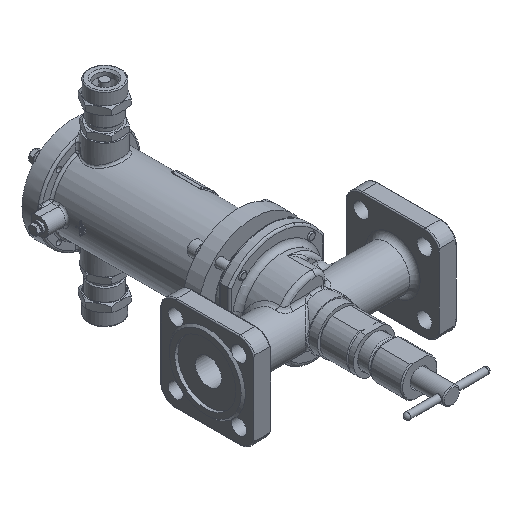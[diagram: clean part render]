
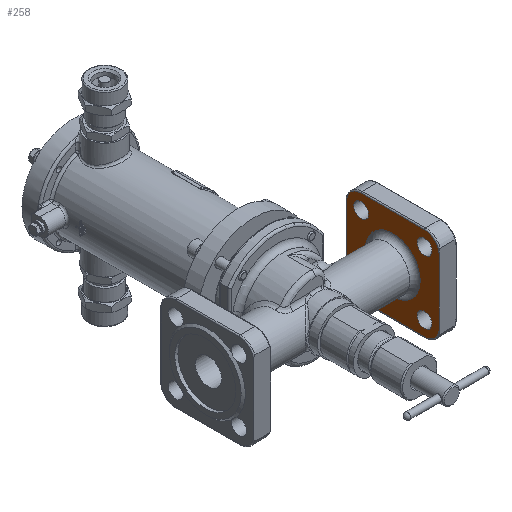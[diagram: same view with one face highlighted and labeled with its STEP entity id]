
A CAD part, isometric view. The second image highlights one B-rep face of the part: STEP entity #258.
In plain terms, the highlighted planar face has unit normal (-1, 0, 0).
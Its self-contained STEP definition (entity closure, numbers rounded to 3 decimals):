
#258=ADVANCED_FACE('',(#6287,#6289,#6291,#6293,#6295,#6297),#6299,.T.);
#6287=FACE_BOUND('',#6288,.T.);
#6288=EDGE_LOOP('',(#21467));
#6289=FACE_BOUND('',#6290,.T.);
#6290=EDGE_LOOP('',(#21468));
#6291=FACE_BOUND('',#6292,.T.);
#6292=EDGE_LOOP('',(#21469));
#6293=FACE_BOUND('',#6294,.T.);
#6294=EDGE_LOOP('',(#21470));
#6295=FACE_BOUND('',#6296,.T.);
#6296=EDGE_LOOP('',(#21471));
#6297=FACE_OUTER_BOUND('',#6298,.T.);
#6298=EDGE_LOOP('',(#21472,#21473,#21474,#21475,#21476,#21477,#21478,#21479));
#6299=PLANE('',#6300);
#6300=AXIS2_PLACEMENT_3D('',#6301,#6302,#6303);
#6301=CARTESIAN_POINT('',(80.,0.,0.));
#6302=DIRECTION('',(-1.,0.,0.));
#6303=DIRECTION('',(0.,1.,0.));
#21467=ORIENTED_EDGE('',*,*,#32664,.F.);
#21468=ORIENTED_EDGE('',*,*,#32712,.T.);
#21469=ORIENTED_EDGE('',*,*,#32713,.T.);
#21470=ORIENTED_EDGE('',*,*,#32714,.T.);
#21471=ORIENTED_EDGE('',*,*,#32715,.T.);
#21472=ORIENTED_EDGE('',*,*,#32716,.T.);
#21473=ORIENTED_EDGE('',*,*,#32717,.T.);
#21474=ORIENTED_EDGE('',*,*,#32718,.T.);
#21475=ORIENTED_EDGE('',*,*,#32719,.T.);
#21476=ORIENTED_EDGE('',*,*,#32720,.T.);
#21477=ORIENTED_EDGE('',*,*,#32721,.T.);
#21478=ORIENTED_EDGE('',*,*,#32722,.T.);
#21479=ORIENTED_EDGE('',*,*,#32723,.T.);
#32664=EDGE_CURVE('',#37829,#37829,#37831,.T.);
#32712=EDGE_CURVE('',#37904,#37904,#37905,.T.);
#32713=EDGE_CURVE('',#37906,#37906,#37907,.T.);
#32714=EDGE_CURVE('',#37908,#37908,#37909,.T.);
#32715=EDGE_CURVE('',#37910,#37910,#37911,.T.);
#32716=EDGE_CURVE('',#37912,#37913,#37914,.F.);
#32717=EDGE_CURVE('',#37913,#37915,#37916,.F.);
#32718=EDGE_CURVE('',#37915,#37917,#37918,.T.);
#32719=EDGE_CURVE('',#37917,#37919,#37920,.F.);
#32720=EDGE_CURVE('',#37919,#37921,#37922,.T.);
#32721=EDGE_CURVE('',#37921,#37923,#37924,.F.);
#32722=EDGE_CURVE('',#37923,#37925,#37926,.T.);
#32723=EDGE_CURVE('',#37925,#37912,#37927,.F.);
#37829=VERTEX_POINT('',#48208);
#37831=CIRCLE('',#48213,26.);
#37904=VERTEX_POINT('',#48565);
#37905=CIRCLE('',#48566,7.);
#37906=VERTEX_POINT('',#48570);
#37907=CIRCLE('',#48571,7.);
#37908=VERTEX_POINT('',#48575);
#37909=CIRCLE('',#48576,7.);
#37910=VERTEX_POINT('',#48580);
#37911=CIRCLE('',#48581,7.);
#37912=VERTEX_POINT('',#48585);
#37913=VERTEX_POINT('',#48586);
#37914=LINE('',#48587,#48588);
#37915=VERTEX_POINT('',#48590);
#37916=CIRCLE('',#48591,14.);
#37917=VERTEX_POINT('',#48595);
#37918=LINE('',#48596,#48597);
#37919=VERTEX_POINT('',#48599);
#37920=CIRCLE('',#48600,14.);
#37921=VERTEX_POINT('',#48604);
#37922=LINE('',#48605,#48606);
#37923=VERTEX_POINT('',#48608);
#37924=CIRCLE('',#48609,14.);
#37925=VERTEX_POINT('',#48613);
#37926=LINE('',#48614,#48615);
#37927=CIRCLE('',#48617,14.);
#48208=CARTESIAN_POINT('',(80.,26.,0.));
#48213=AXIS2_PLACEMENT_3D('',#48214,#48215,#48216);
#48214=CARTESIAN_POINT('',(80.,0.,0.));
#48215=DIRECTION('',(-1.,0.,0.));
#48216=DIRECTION('',(0.,1.,0.));
#48565=CARTESIAN_POINT('',(80.,30.052,37.052));
#48566=AXIS2_PLACEMENT_3D('',#48567,#48568,#48569);
#48567=CARTESIAN_POINT('',(80.,30.052,30.052));
#48568=DIRECTION('',(1.,0.,0.));
#48569=DIRECTION('',(0.,0.,1.));
#48570=CARTESIAN_POINT('',(80.,-30.052,37.052));
#48571=AXIS2_PLACEMENT_3D('',#48572,#48573,#48574);
#48572=CARTESIAN_POINT('',(80.,-30.052,30.052));
#48573=DIRECTION('',(1.,0.,0.));
#48574=DIRECTION('',(0.,0.,1.));
#48575=CARTESIAN_POINT('',(80.,-30.052,-23.052));
#48576=AXIS2_PLACEMENT_3D('',#48577,#48578,#48579);
#48577=CARTESIAN_POINT('',(80.,-30.052,-30.052));
#48578=DIRECTION('',(1.,0.,0.));
#48579=DIRECTION('',(0.,0.,1.));
#48580=CARTESIAN_POINT('',(80.,30.052,-23.052));
#48581=AXIS2_PLACEMENT_3D('',#48582,#48583,#48584);
#48582=CARTESIAN_POINT('',(80.,30.052,-30.052));
#48583=DIRECTION('',(1.,0.,0.));
#48584=DIRECTION('',(0.,0.,1.));
#48585=CARTESIAN_POINT('',(80.,-44.,-30.));
#48586=CARTESIAN_POINT('',(80.,-44.,30.));
#48587=CARTESIAN_POINT('',(80.,-44.,30.));
#48588=VECTOR('',#48589,1.);
#48589=DIRECTION('',(0.,0.,-1.));
#48590=CARTESIAN_POINT('',(80.,-30.,44.));
#48591=AXIS2_PLACEMENT_3D('',#48592,#48593,#48594);
#48592=CARTESIAN_POINT('',(80.,-30.,30.));
#48593=DIRECTION('',(1.,0.,0.));
#48594=DIRECTION('',(0.,0.,1.));
#48595=CARTESIAN_POINT('',(80.,30.,44.));
#48596=CARTESIAN_POINT('',(80.,-30.,44.));
#48597=VECTOR('',#48598,1.);
#48598=DIRECTION('',(0.,1.,0.));
#48599=CARTESIAN_POINT('',(80.,44.,30.));
#48600=AXIS2_PLACEMENT_3D('',#48601,#48602,#48603);
#48601=CARTESIAN_POINT('',(80.,30.,30.));
#48602=DIRECTION('',(1.,0.,0.));
#48603=DIRECTION('',(0.,1.,0.));
#48604=CARTESIAN_POINT('',(80.,44.,-30.));
#48605=CARTESIAN_POINT('',(80.,44.,30.));
#48606=VECTOR('',#48607,1.);
#48607=DIRECTION('',(0.,0.,-1.));
#48608=CARTESIAN_POINT('',(80.,30.,-44.));
#48609=AXIS2_PLACEMENT_3D('',#48610,#48611,#48612);
#48610=CARTESIAN_POINT('',(80.,30.,-30.));
#48611=DIRECTION('',(1.,0.,0.));
#48612=DIRECTION('',(0.,0.,-1.));
#48613=CARTESIAN_POINT('',(80.,-30.,-44.));
#48614=CARTESIAN_POINT('',(80.,30.,-44.));
#48615=VECTOR('',#48616,1.);
#48616=DIRECTION('',(0.,-1.,0.));
#48617=AXIS2_PLACEMENT_3D('',#48618,#48619,#48620);
#48618=CARTESIAN_POINT('',(80.,-30.,-30.));
#48619=DIRECTION('',(1.,0.,0.));
#48620=DIRECTION('',(0.,-1.,0.));
